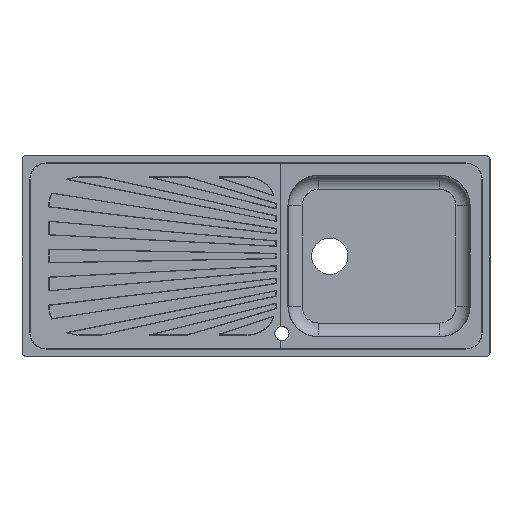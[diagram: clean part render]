
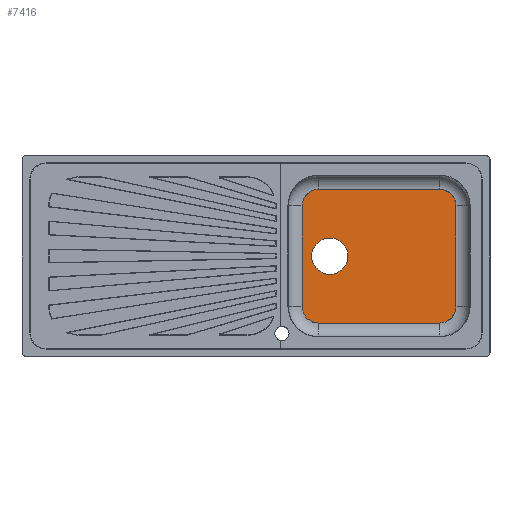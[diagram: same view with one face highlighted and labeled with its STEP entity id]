
A CAD part, top view. The second image highlights one B-rep face of the part: STEP entity #7416.
In plain terms, the highlighted planar face has unit normal (0, 0, 1).
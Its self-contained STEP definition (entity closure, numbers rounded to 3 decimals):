
#7252=CARTESIAN_POINT('Vertex',(228.,0.,-208.)) ;
#7255=CARTESIAN_POINT('Axis2P3D Location',(183.,0.,-208.)) ;
#7259=CARTESIAN_POINT('Vertex',(138.,0.,-208.)) ;
#7274=CARTESIAN_POINT('Axis2P3D Location',(183.,0.,-208.)) ;
#7317=CARTESIAN_POINT('Axis2P3D Location',(305.,0.,-208.)) ;
#7323=CARTESIAN_POINT('Control Point',(455.,-165.7,-208.)) ;
#7324=CARTESIAN_POINT('Control Point',(461.393,-165.7,-208.)) ;
#7325=CARTESIAN_POINT('Control Point',(467.786,-164.445,-208.)) ;
#7326=CARTESIAN_POINT('Control Point',(473.85,-161.933,-208.)) ;
#7327=CARTESIAN_POINT('Control Point',(484.667,-154.667,-208.)) ;
#7328=CARTESIAN_POINT('Control Point',(491.933,-143.85,-208.)) ;
#7329=CARTESIAN_POINT('Control Point',(494.445,-137.786,-208.)) ;
#7330=CARTESIAN_POINT('Control Point',(495.7,-131.393,-208.)) ;
#7331=CARTESIAN_POINT('Control Point',(495.7,-125.,-208.)) ;
#7332=CARTESIAN_POINT('Vertex',(455.,-165.7,-208.)) ;
#7334=CARTESIAN_POINT('Vertex',(495.7,-125.,-208.)) ;
#7337=CARTESIAN_POINT('Line Origine',(495.7,0.,-208.)) ;
#7341=CARTESIAN_POINT('Vertex',(495.7,125.,-208.)) ;
#7345=CARTESIAN_POINT('Control Point',(495.7,125.,-208.)) ;
#7346=CARTESIAN_POINT('Control Point',(495.7,131.393,-208.)) ;
#7347=CARTESIAN_POINT('Control Point',(494.445,137.786,-208.)) ;
#7348=CARTESIAN_POINT('Control Point',(491.933,143.85,-208.)) ;
#7349=CARTESIAN_POINT('Control Point',(484.667,154.667,-208.)) ;
#7350=CARTESIAN_POINT('Control Point',(473.85,161.933,-208.)) ;
#7351=CARTESIAN_POINT('Control Point',(467.786,164.445,-208.)) ;
#7352=CARTESIAN_POINT('Control Point',(461.393,165.7,-208.)) ;
#7353=CARTESIAN_POINT('Control Point',(455.,165.7,-208.)) ;
#7354=CARTESIAN_POINT('Vertex',(455.,165.7,-208.)) ;
#7357=CARTESIAN_POINT('Line Origine',(305.,165.7,-208.)) ;
#7361=CARTESIAN_POINT('Vertex',(155.,165.7,-208.)) ;
#7365=CARTESIAN_POINT('Control Point',(155.,165.7,-208.)) ;
#7366=CARTESIAN_POINT('Control Point',(148.607,165.7,-208.)) ;
#7367=CARTESIAN_POINT('Control Point',(142.214,164.445,-208.)) ;
#7368=CARTESIAN_POINT('Control Point',(136.15,161.933,-208.)) ;
#7369=CARTESIAN_POINT('Control Point',(125.333,154.667,-208.)) ;
#7370=CARTESIAN_POINT('Control Point',(118.067,143.85,-208.)) ;
#7371=CARTESIAN_POINT('Control Point',(115.555,137.786,-208.)) ;
#7372=CARTESIAN_POINT('Control Point',(114.3,131.393,-208.)) ;
#7373=CARTESIAN_POINT('Control Point',(114.3,125.,-208.)) ;
#7374=CARTESIAN_POINT('Vertex',(114.3,125.,-208.)) ;
#7377=CARTESIAN_POINT('Line Origine',(114.3,0.,-208.)) ;
#7381=CARTESIAN_POINT('Vertex',(114.3,-125.,-208.)) ;
#7385=CARTESIAN_POINT('Control Point',(114.3,-125.,-208.)) ;
#7386=CARTESIAN_POINT('Control Point',(114.3,-131.393,-208.)) ;
#7387=CARTESIAN_POINT('Control Point',(115.555,-137.786,-208.)) ;
#7388=CARTESIAN_POINT('Control Point',(118.067,-143.85,-208.)) ;
#7389=CARTESIAN_POINT('Control Point',(125.333,-154.667,-208.)) ;
#7390=CARTESIAN_POINT('Control Point',(136.15,-161.933,-208.)) ;
#7391=CARTESIAN_POINT('Control Point',(142.214,-164.445,-208.)) ;
#7392=CARTESIAN_POINT('Control Point',(148.607,-165.7,-208.)) ;
#7393=CARTESIAN_POINT('Control Point',(155.,-165.7,-208.)) ;
#7394=CARTESIAN_POINT('Vertex',(155.,-165.7,-208.)) ;
#7397=CARTESIAN_POINT('Line Origine',(305.,-165.7,-208.)) ;
#7256=DIRECTION('Axis2P3D Direction',(0.,0.,1.)) ;
#7275=DIRECTION('Axis2P3D Direction',(0.,0.,1.)) ;
#7318=DIRECTION('Axis2P3D Direction',(0.,0.,1.)) ;
#7319=DIRECTION('Axis2P3D XDirection',(1.,0.,0.)) ;
#7338=DIRECTION('Vector Direction',(0.,1.,0.)) ;
#7358=DIRECTION('Vector Direction',(1.,0.,0.)) ;
#7378=DIRECTION('Vector Direction',(0.,1.,0.)) ;
#7398=DIRECTION('Vector Direction',(1.,0.,0.)) ;
#7257=AXIS2_PLACEMENT_3D('Circle Axis2P3D',#7255,#7256,$) ;
#7276=AXIS2_PLACEMENT_3D('Circle Axis2P3D',#7274,#7275,$) ;
#7320=AXIS2_PLACEMENT_3D('Plane Axis2P3D',#7317,#7318,#7319) ;
#7403=ORIENTED_EDGE('',*,*,#7336,.T.) ;
#7404=ORIENTED_EDGE('',*,*,#7343,.F.) ;
#7405=ORIENTED_EDGE('',*,*,#7356,.T.) ;
#7406=ORIENTED_EDGE('',*,*,#7363,.F.) ;
#7407=ORIENTED_EDGE('',*,*,#7376,.T.) ;
#7408=ORIENTED_EDGE('',*,*,#7383,.F.) ;
#7409=ORIENTED_EDGE('',*,*,#7396,.T.) ;
#7410=ORIENTED_EDGE('',*,*,#7401,.F.) ;
#7413=ORIENTED_EDGE('',*,*,#7261,.F.) ;
#7414=ORIENTED_EDGE('',*,*,#7278,.F.) ;
#7415=FACE_BOUND('',#7412,.T.) ;
#7339=VECTOR('Line Direction',#7338,1.) ;
#7359=VECTOR('Line Direction',#7358,1.) ;
#7379=VECTOR('Line Direction',#7378,1.) ;
#7399=VECTOR('Line Direction',#7398,1.) ;
#7416=ADVANCED_FACE('Vasca-45',(#7411,#7415),#7321,.T.) ;
#7322=B_SPLINE_CURVE_WITH_KNOTS('',5,(#7323,#7324,#7325,#7326,#7327,#7328,#7329,#7330,#7331),.UNSPECIFIED.,.F.,.U.,(6,3,6),(191.794,223.76,255.726),.UNSPECIFIED.) ;
#7344=B_SPLINE_CURVE_WITH_KNOTS('',5,(#7345,#7346,#7347,#7348,#7349,#7350,#7351,#7352,#7353),.UNSPECIFIED.,.F.,.U.,(6,3,6),(0.,31.966,63.931),.UNSPECIFIED.) ;
#7364=B_SPLINE_CURVE_WITH_KNOTS('',5,(#7365,#7366,#7367,#7368,#7369,#7370,#7371,#7372,#7373),.UNSPECIFIED.,.F.,.U.,(6,3,6),(63.931,95.897,127.863),.UNSPECIFIED.) ;
#7384=B_SPLINE_CURVE_WITH_KNOTS('',5,(#7385,#7386,#7387,#7388,#7389,#7390,#7391,#7392,#7393),.UNSPECIFIED.,.F.,.U.,(6,3,6),(127.863,159.829,191.794),.UNSPECIFIED.) ;
#7258=CIRCLE('generated circle',#7257,45.) ;
#7277=CIRCLE('generated circle',#7276,45.) ;
#7261=EDGE_CURVE('',#7253,#7260,#7258,.T.) ;
#7278=EDGE_CURVE('',#7260,#7253,#7277,.T.) ;
#7336=EDGE_CURVE('',#7333,#7335,#7322,.T.) ;
#7343=EDGE_CURVE('',#7342,#7335,#7340,.F.) ;
#7356=EDGE_CURVE('',#7342,#7355,#7344,.T.) ;
#7363=EDGE_CURVE('',#7362,#7355,#7360,.T.) ;
#7376=EDGE_CURVE('',#7362,#7375,#7364,.T.) ;
#7383=EDGE_CURVE('',#7382,#7375,#7380,.T.) ;
#7396=EDGE_CURVE('',#7382,#7395,#7384,.T.) ;
#7401=EDGE_CURVE('',#7333,#7395,#7400,.F.) ;
#7402=EDGE_LOOP('',(#7403,#7404,#7405,#7406,#7407,#7408,#7409,#7410)) ;
#7412=EDGE_LOOP('',(#7413,#7414)) ;
#7411=FACE_OUTER_BOUND('',#7402,.T.) ;
#7340=LINE('Line',#7337,#7339) ;
#7360=LINE('Line',#7357,#7359) ;
#7380=LINE('Line',#7377,#7379) ;
#7400=LINE('Line',#7397,#7399) ;
#7321=PLANE('',#7320) ;
#7253=VERTEX_POINT('',#7252) ;
#7260=VERTEX_POINT('',#7259) ;
#7333=VERTEX_POINT('',#7332) ;
#7335=VERTEX_POINT('',#7334) ;
#7342=VERTEX_POINT('',#7341) ;
#7355=VERTEX_POINT('',#7354) ;
#7362=VERTEX_POINT('',#7361) ;
#7375=VERTEX_POINT('',#7374) ;
#7382=VERTEX_POINT('',#7381) ;
#7395=VERTEX_POINT('',#7394) ;
